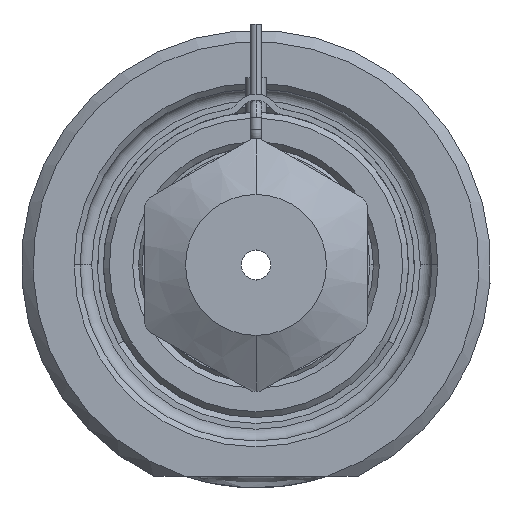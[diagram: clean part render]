
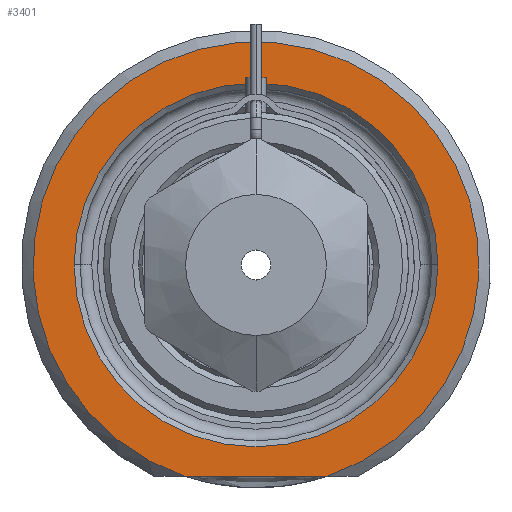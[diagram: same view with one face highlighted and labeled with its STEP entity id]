
A CAD part, front view. The second image highlights one B-rep face of the part: STEP entity #3401.
In plain terms, the highlighted planar face has unit normal (0, -1, 0).
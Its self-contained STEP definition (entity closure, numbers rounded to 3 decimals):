
#1=DIRECTION('',(1.,0.,0.));
#2=VECTOR('',#1,12.166);
#3=CARTESIAN_POINT('',(-6.083,0.,-18.));
#4=LINE('',#3,#2);
#5=CARTESIAN_POINT('',(0.,0.,0.));
#6=DIRECTION('',(0.,1.,0.));
#7=DIRECTION('',(-1.,0.,0.));
#8=AXIS2_PLACEMENT_3D('',#5,#6,#7);
#10=CARTESIAN_POINT('',(0.,0.,0.));
#11=DIRECTION('',(0.,1.,0.));
#12=DIRECTION('',(1.,0.,0.));
#13=AXIS2_PLACEMENT_3D('',#10,#11,#12);
#264=CARTESIAN_POINT('',(0.,0.,0.));
#265=DIRECTION('',(0.,-1.,0.));
#266=DIRECTION('',(0.32,0.,-0.947));
#267=AXIS2_PLACEMENT_3D('',#264,#265,#266);
#2845=CARTESIAN_POINT('',(-15.5,0.,0.));
#2846=CARTESIAN_POINT('',(15.5,0.,0.));
#2847=VERTEX_POINT('',#2845);
#2848=VERTEX_POINT('',#2846);
#2903=CARTESIAN_POINT('',(-6.083,0.,-18.));
#2904=CARTESIAN_POINT('',(6.083,0.,-18.));
#2905=VERTEX_POINT('',#2903);
#2906=VERTEX_POINT('',#2904);
#3384=CARTESIAN_POINT('',(0.,0.,0.));
#3385=DIRECTION('',(0.,-1.,0.));
#3386=DIRECTION('',(1.,0.,0.));
#3387=AXIS2_PLACEMENT_3D('',#3384,#3385,#3386);
#3388=PLANE('',#3387);
#3390=ORIENTED_EDGE('',*,*,#3389,.F.);
#3392=ORIENTED_EDGE('',*,*,#3391,.F.);
#3393=EDGE_LOOP('',(#3390,#3392));
#3394=FACE_OUTER_BOUND('',#3393,.F.);
#3396=ORIENTED_EDGE('',*,*,#3395,.F.);
#3398=ORIENTED_EDGE('',*,*,#3397,.F.);
#3399=EDGE_LOOP('',(#3396,#3398));
#3400=FACE_BOUND('',#3399,.F.);
#3401=ADVANCED_FACE('',(#3394,#3400),#3388,.T.);
#9=CIRCLE('',#8,15.5);
#14=CIRCLE('',#13,15.5);
#268=CIRCLE('',#267,19.);
#3389=EDGE_CURVE('',#2905,#2906,#4,.T.);
#3391=EDGE_CURVE('',#2906,#2905,#268,.T.);
#3395=EDGE_CURVE('',#2847,#2848,#9,.T.);
#3397=EDGE_CURVE('',#2848,#2847,#14,.T.);
